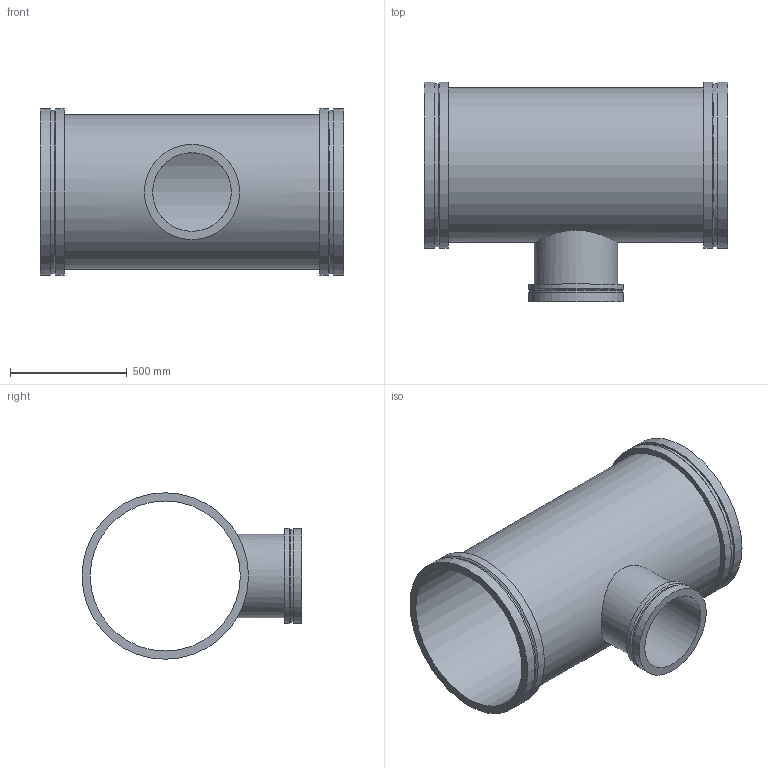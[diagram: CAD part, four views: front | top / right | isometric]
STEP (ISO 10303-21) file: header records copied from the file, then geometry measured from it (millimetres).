
FILE_DESCRIPTION(/* description */ ('VIC REDUCING TEE No W025 VR','CAx-IF Rec.Pracs.---Representation and Presentation of Product Manufacturing Information (PMI)---4.0---2014-10-13'),/* implementation_level */ '2;1');
FILE_NAME(/* name */ 'C:\Users\kkamble\AppData\Roaming\Autodesk\ApplicationPlugins\Back Up\Victaulic_Vic-Ring_Tee Reducing_No W25 VR (AGR)\Victaulic_Vic-Ring_Tee Reducing_No W25 VR (AGR)_26.0x14.0 (650x350).stp',/* time_stamp */ '2020-09-10T11:53:20+05:00',/* author */ ('mchristi'),/* organization */ ('Victaulic'),/* preprocessor_version */ 'ST-DEVELOPER v17.2',/* originating_system */ 'Autodesk Inventor 2019',/* authorisation */ '');
FILE_SCHEMA (('AP242_MANAGED_MODEL_BASED_3D_ENGINEERING_MIM_LF { 1 0 10303 442 1 1 4 }'));
Length unit declared in the file: inch
Products named in the file (1): W25 VR-26.0x14.0
Bounding box: 1295.4 x 939.8 x 711.2 mm (x, y, z)
Volume: 40024895.5 mm3; surface area: 6147540.4 mm2
Topology: 1 solids, 1 shells, 25 faces, 68 edges, 52 vertices
Faces by surface type: cylinder 13, plane 9, cone 3
Full cylindrical faces by diameter (mm): 336.55 x1, 355.6 x1, 393.7 x1, 406.4 x2, 641.35 x1, 660.4 x1, 696.722 x2, 711.2 x4
Entity records: 1171 total; most frequent: CARTESIAN_POINT 327, DIRECTION 190, ORIENTED_EDGE 136, AXIS2_PLACEMENT_3D 87, EDGE_CURVE 68, VERTEX_POINT 52, CIRCLE 48, EDGE_LOOP 36
